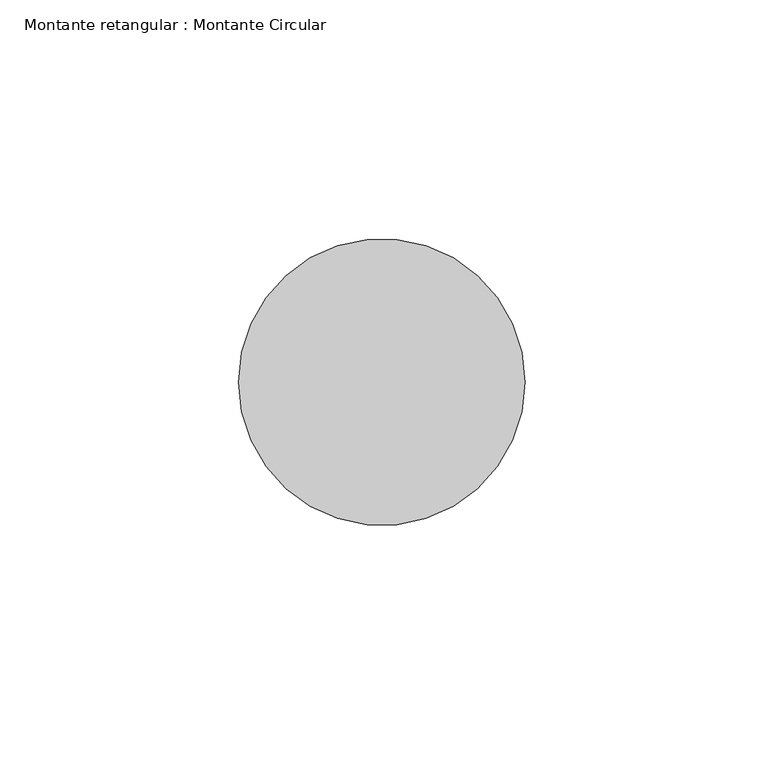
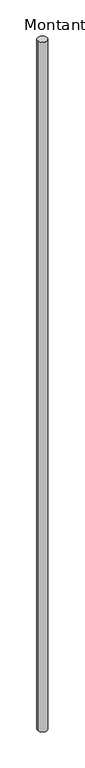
"""IFC4 building model written with IfcOpenShell, lengths in millimetres: member geometry, Montante retangular : Montante Circular."""

from ifc_helpers import new_model, si_unit, point, frame, origin, origin_2d, place, context, project, spatial, circle_curve, trimmed, segment, composite_curve, outline, extrude, source, transform, mapped, element, save


def montante_retangular_montante_circular_86a469dc(model_context):
    return source(origin(), model_context, "Body", "SweptSolid", [
        extrude(outline(composite_curve([segment(trimmed(circle_curve(origin_2d(), 30.0), [point((30.0, 0.0))], [point((-30.0, 0.0))], False, "CARTESIAN"), True, "CONTINUOUS"), segment(trimmed(circle_curve(origin_2d(), 30.0), [point((-30.0, 0.0))], [point((30.0, 0.0))], False, "CARTESIAN"), True, "CONTINUOUS")], self_intersect=False)), frame((0.0, 0.0, -4600.0), z_axis=(0.0, 0.0, 1.0), x_axis=(1.0, 0.0, 0.0)), (0.0, 0.0, 1.0), 4600.0),
    ])


if __name__ == "__main__":
    model = new_model("IFC4")
    model_context = context("Model", 3, world=origin())
    ifc_project = project(units=[si_unit("LENGTHUNIT", "METRE", prefix="MILLI")], contexts=[model_context])
    site = spatial("IfcSite", under=ifc_project)
    building = spatial("IfcBuilding", under=site)
    placement = place(None, origin())
    montante_retangular_montante_circular_shape = montante_retangular_montante_circular_86a469dc(model_context)
    element("IfcMember", 1, ObjectType="Montante retangular : Montante Circular", at=placement, inside=building, context=model_context, shape_type="MappedRepresentation", body=[
        mapped(montante_retangular_montante_circular_shape, transform((0.0, 0.0, 0.0), x_axis=(1.0, 0.0, 0.0), y_axis=(0.0, 1.0, 0.0), z_axis=(0.0, 0.0, 1.0))),
    ])
    save(model, "model.ifc")
